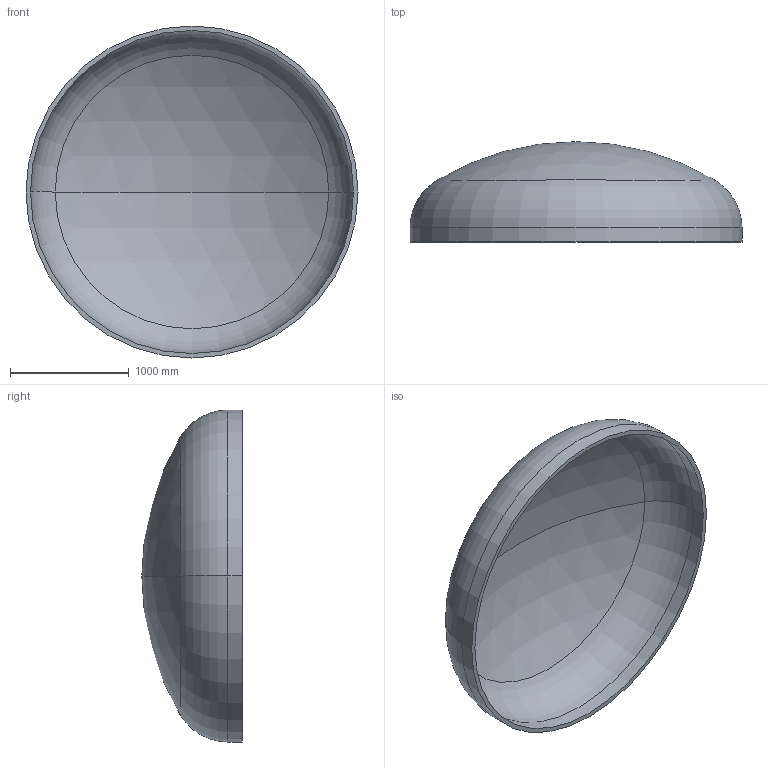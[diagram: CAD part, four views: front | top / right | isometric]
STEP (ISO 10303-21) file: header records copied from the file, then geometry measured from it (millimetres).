
FILE_DESCRIPTION (( 'STEP AP203' ), '1' );
FILE_NAME ('DIN 28013 Korbbogenform_-_Boden DIN 28013 - 2800 x 120 - I - s=38.step', '2016-07-01T16:56:54', ( '' ), ( '' ), 'SwSTEP 2.0', 'SolidWorks 2013', '' );
FILE_SCHEMA (( 'CONFIG_CONTROL_DESIGN' ));
Length unit declared in the file: millimetre
Products named in the file (1): DIN 28013 Korbbogenform_-_Boden DIN 28013 - 2800 x 120 - I - s=38
Bounding box: 2800 x 846.4 x 2800 mm (x, y, z)
Volume: 357699899 mm3; surface area: 19159057.2 mm2
Topology: 1 solids, 1 shells, 13 faces, 24 edges, 14 vertices
Faces by surface type: torus 4, cylinder 4, sphere 4, plane 1
Entity records: 407 total; most frequent: DIRECTION 72, CARTESIAN_POINT 52, ORIENTED_EDGE 48, AXIS2_PLACEMENT_3D 34, EDGE_CURVE 24, CIRCLE 20, VERTEX_POINT 14, EDGE_LOOP 14
